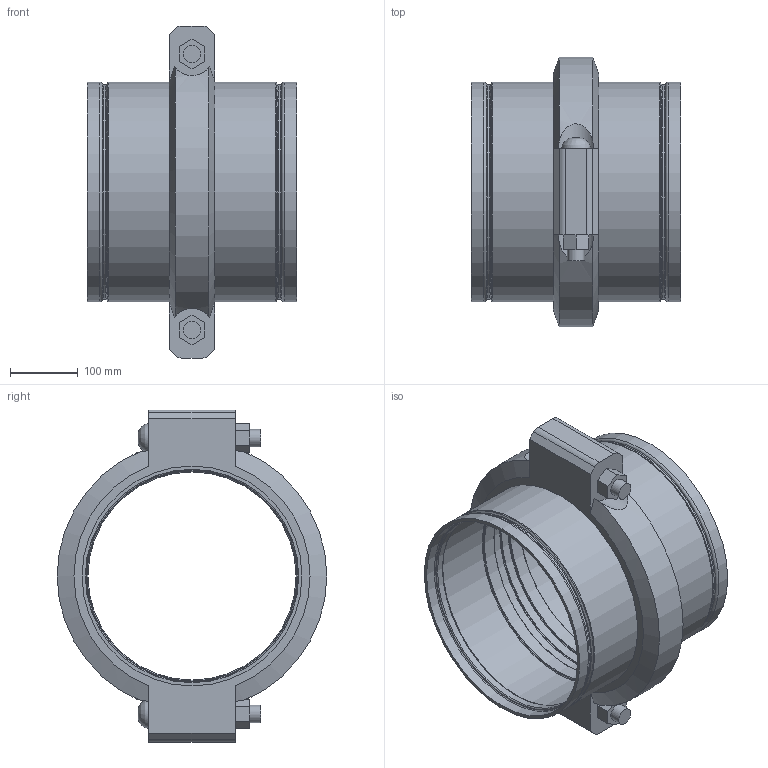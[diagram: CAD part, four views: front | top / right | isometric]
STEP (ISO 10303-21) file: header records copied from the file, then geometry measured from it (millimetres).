
FILE_DESCRIPTION(/* description */ ('VIC STRENGTHIN 100 EXPANSION JOINT 1 COUPLING NEUTRAL STYLE E155 (ST1)','CAx-IF Rec.Pracs.---Representation and Presentation of Product Manufacturing Information (PMI)---4.0---2014-10-13'),/* implementation_level */ '2;1');
FILE_NAME(/* name */ 'C:\Users\Vjadhav\AppData\Roaming\Autodesk\ApplicationPlugins\Victaulic.Temp\A726\Victaulic_SS-StrengThin 100_Expansion Joint_Neutral_1 Coupling_Style E155 (ST1)_1 Coup_Neut_12 (300).stp',/* time_stamp */ '2021-07-20T17:39:01+05:00',/* author */ ('kkamble'),/* organization */ ('Victaulic'),/* preprocessor_version */ 'ST-DEVELOPER v17.2',/* originating_system */ 'Autodesk Inventor 2019',/* authorisation */ '');
FILE_SCHEMA (('AP242_MANAGED_MODEL_BASED_3D_ENGINEERING_MIM_LF { 1 0 10303 442 1 1 4 }'));
Length unit declared in the file: inch
Products named in the file (3): E155-12.0; E494G-12.0; 077-12.0
Assembly tree (3 placements, depth 2):
  E155-12.0
    E494G-12.0  x2
    077-12.0
Bounding box: 308.1 x 397 x 488.95 mm (x, y, z)
Volume: 4962041.5 mm3; surface area: 980797.3 mm2
Topology: 3 solids, 5 shells, 131 faces, 375 edges, 272 vertices
Faces by surface type: plane 50, cylinder 39, torus 32, cone 8, bspline 2
Full cylindrical faces by diameter (mm): 25.4 x4, 27.432 x2, 306.426 x2, 308.737 x2, 314.3 x6, 314.96 x1, 315.976 x2, 318.287 x2, 323.85 x8
Entity records: 3557 total; most frequent: CARTESIAN_POINT 755, DIRECTION 591, ORIENTED_EDGE 520, EDGE_CURVE 260, AXIS2_PLACEMENT_3D 251, VERTEX_POINT 185, CIRCLE 151, EDGE_LOOP 117
